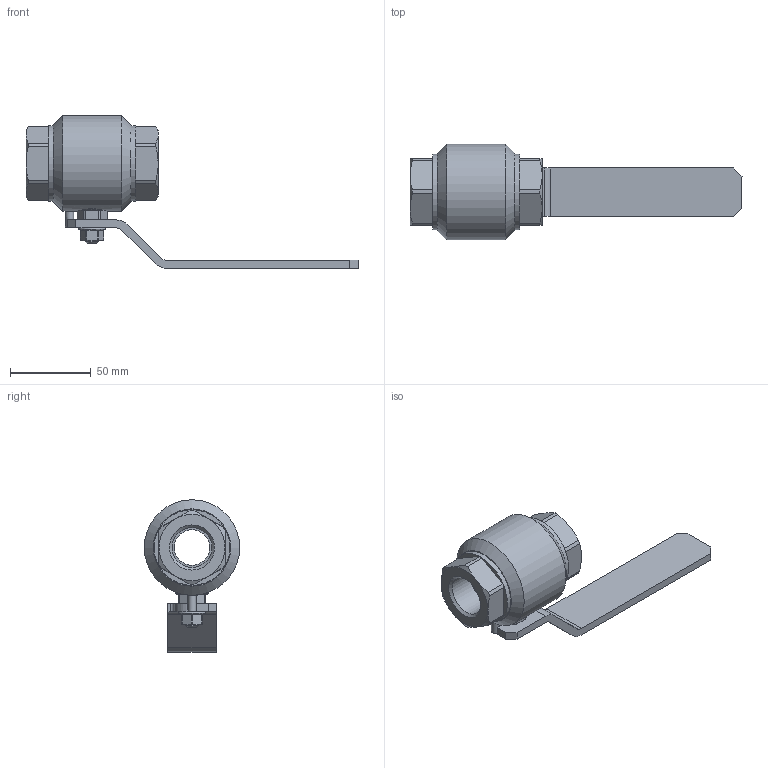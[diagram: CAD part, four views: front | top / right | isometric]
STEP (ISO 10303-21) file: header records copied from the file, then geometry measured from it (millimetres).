
FILE_DESCRIPTION(('STEP AP203'), '1');
FILE_NAME('ZARD 025.063.10.P.stp', '2013-12-05T13:36:02', ('Øèøêî'), ('Ýíåðïðåä ßðäîñ'), 'ASCON STEP Converter 1.3', 'Kompas 3D', '');
FILE_SCHEMA(('CONFIG_CONTROL_DESIGN','SUPPORT_RESOURCE_SCHEMA'));
Length unit declared in the file: millimetre
Products named in the file (1): 226
Bounding box: 206 x 59.3 x 94.65 mm (x, y, z)
Volume: 156711.1 mm3; surface area: 41163.8 mm2
Topology: 1 solids, 3 shells, 186 faces, 430 edges, 267 vertices
Faces by surface type: plane 98, cylinder 53, cone 34, torus 1
Full cylindrical faces by diameter (mm): 5 x2, 8 x1, 10.7 x1, 10.917 x1, 12 x1, 12.1 x1, 19.8 x1, 20 x2, 22 x2, 24.8 x2, 38.4 x1, 47 x2, 59.3 x1
Entity records: 6679 total; most frequent: CARTESIAN_POINT 2332, DIRECTION 918, ORIENTED_EDGE 860, EDGE_CURVE 430, AXIS2_PLACEMENT_3D 353, VERTEX_POINT 267, LINE 212, VECTOR 212
